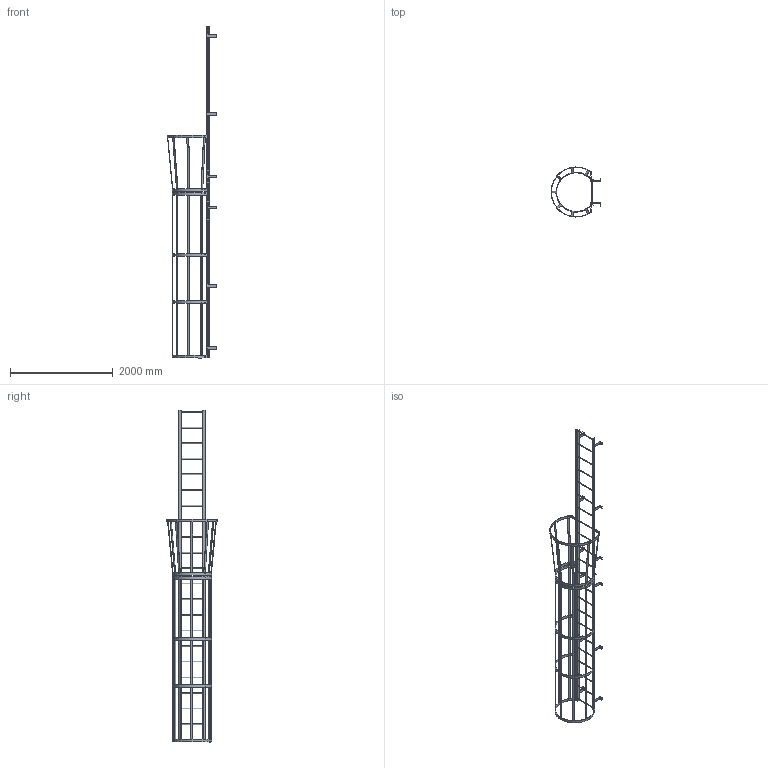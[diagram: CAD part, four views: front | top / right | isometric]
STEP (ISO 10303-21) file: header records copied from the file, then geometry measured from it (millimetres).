
FILE_DESCRIPTION(/* description */ (''),/* implementation_level */ '2;1');
FILE_NAME(/* name */ 'P:\MIKEL & KAREN\D0570195-08 F22SC SIMPLIFIED PART.stp',/* time_stamp */ '2018-07-03T08:06:25-04:00',/* author */ ('stephanie'),/* organization */ (''),/* preprocessor_version */ 'ST-DEVELOPER v16.1',/* originating_system */ 'Autodesk Inventor 2016',/* authorisation */ '');
FILE_SCHEMA (('AUTOMOTIVE_DESIGN { 1 0 10303 214 3 1 1 }'));
Length unit declared in the file: centimetre
Products named in the file (1): D0570195-08 F22SC SIMPLIFIED PART
Bounding box: 974.15 x 977.88 x 6477 mm (x, y, z)
Volume: 20874053.3 mm3; surface area: 7311045.6 mm2
Topology: 30 solids, 30 shells, 619 faces, 1833 edges, 1190 vertices
Faces by surface type: plane 412, cylinder 207
Full cylindrical faces by diameter (mm): 14.287 x14, 19.05 x22, 22.225 x44
Entity records: 20874 total; most frequent: ORIENTED_EDGE 3504, DIRECTION 3458, CARTESIAN_POINT 3447, EDGE_CURVE 1695, LINE 1172, VECTOR 1172, AXIS2_PLACEMENT_3D 1143, VERTEX_POINT 1132
